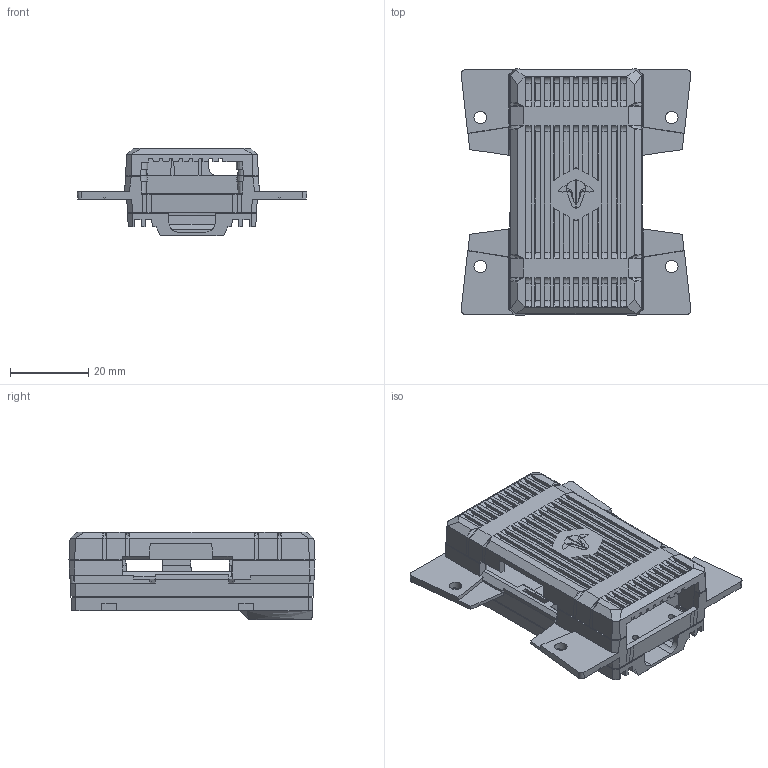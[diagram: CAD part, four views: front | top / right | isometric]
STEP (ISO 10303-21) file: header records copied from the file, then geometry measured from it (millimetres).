
FILE_DESCRIPTION (( 'STEP AP214' ), '1' );
FILE_NAME ('Wing AIO 2-6S 50A.STEP', '2025-11-11T03:28:42', ( '' ), ( '' ), 'SwSTEP 2.0', 'SolidWorks 2025', '' );
FILE_SCHEMA (( 'AUTOMOTIVE_DESIGN' ));
Length unit declared in the file: millimetre
Products named in the file (1): Wing AIO 2-6S 50A
Bounding box: 58.74 x 62.94 x 22.4 mm (x, y, z)
Volume: 14737.2 mm3; surface area: 21093.9 mm2
Topology: 3 solids, 3 shells, 947 faces, 2610 edges, 1693 vertices
Faces by surface type: plane 742, cylinder 131, cone 40, bspline 34
Entity records: 32076 total; most frequent: CARTESIAN_POINT 8890, ORIENTED_EDGE 5188, DIRECTION 4227, EDGE_CURVE 2594, VECTOR 2059, LINE 2059, VERTEX_POINT 1693, AXIS2_PLACEMENT_3D 1084
